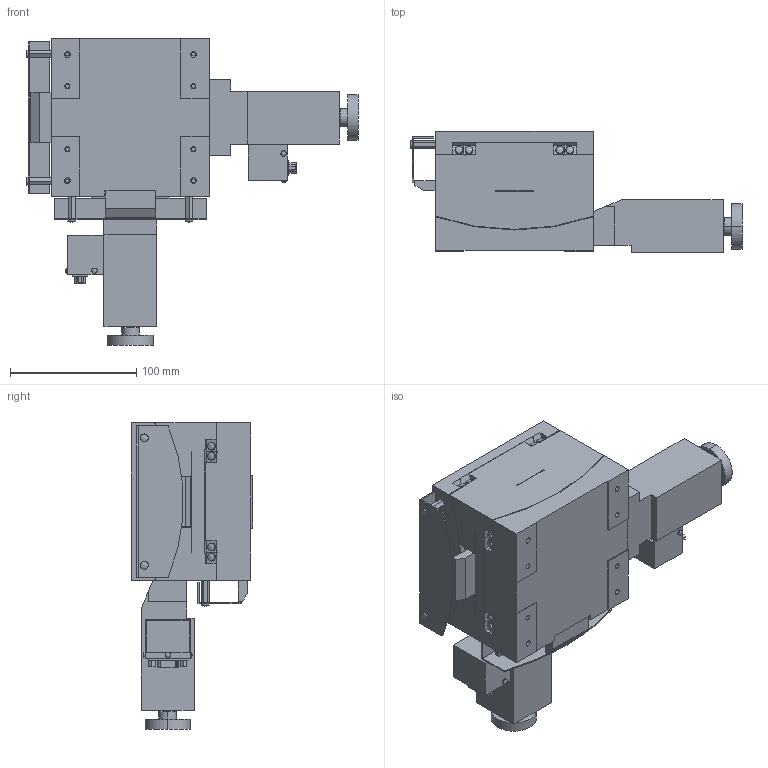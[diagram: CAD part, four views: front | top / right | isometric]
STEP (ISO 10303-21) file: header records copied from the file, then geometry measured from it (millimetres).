
FILE_DESCRIPTION (( 'STEP AP203' ), '1' );
FILE_NAME ('ATD-1220-HP.STEP', '2016-07-13T10:23:51', ( '' ), ( '' ), 'SwSTEP 2.0', 'SolidWorks 2011', '' );
FILE_SCHEMA (( 'CONFIG_CONTROL_DESIGN' ));
Length unit declared in the file: millimetre
Products named in the file (4): ATD-1220-HP; ATD-1220-HP-3; ATD-1220-HP-2; ATD-1220-HP-1
Assembly tree (3 placements, depth 2):
  ATD-1220-HP
    ATD-1220-HP-2
    ATD-1220-HP-1
    ATD-1220-HP-3
Bounding box: 263.32 x 96.5 x 243 mm (x, y, z)
Volume: 1846524.4 mm3; surface area: 283141.2 mm2
Topology: 3 solids, 7 shells, 829 faces, 2078 edges, 1376 vertices
Faces by surface type: plane 395, cylinder 348, cone 52, sphere 24, bspline 10
Entity records: 29882 total; most frequent: CARTESIAN_POINT 9007, DIRECTION 4308, ORIENTED_EDGE 4156, EDGE_CURVE 2078, AXIS2_PLACEMENT_3D 1573, VERTEX_POINT 1376, VECTOR 1162, LINE 1162
